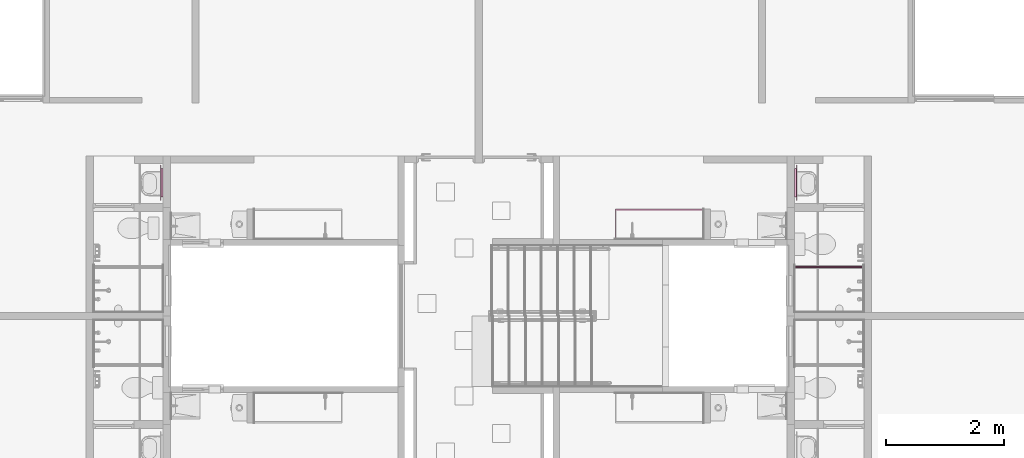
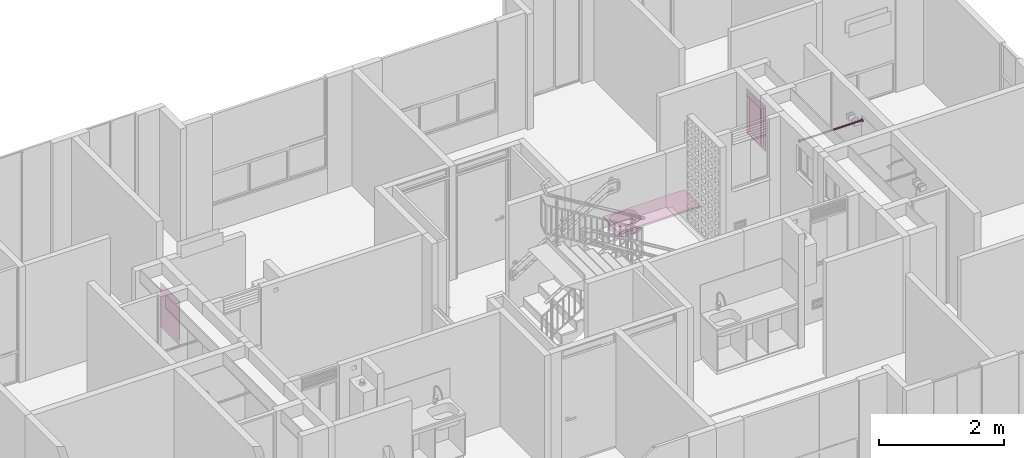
# One storey, part 44 of 48: 4 furniture elements.
"""IFC4 building model written with IfcOpenShell, lengths in metres."""

from ifc_helpers import new_model, entity, si_unit, converted_unit, derived_unit, direction, frame, origin, place, context, subcontext, project, spatial, arc, indexed_curve, outline, extrude, polygons, source, transform, mapped, material, constituent, constituent_set, type_object, type_shapes, element, save


model = new_model("IFC4")

# Units and contexts
model_context = context("Model", 3, precision=1e-05, world=origin(), true_north=direction((6.123031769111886e-17, 1.0)))
body_context = subcontext(model_context, "Body", "Model", "MODEL_VIEW")
ifc_project = project(units=[si_unit("LENGTHUNIT", "METRE"), si_unit("AREAUNIT", "SQUARE_METRE"), si_unit("VOLUMEUNIT", "CUBIC_METRE"), converted_unit("PLANEANGLEUNIT", "DEGREE", entity("IfcRatioMeasure", 0.017453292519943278), si_unit("PLANEANGLEUNIT", "RADIAN"), dimensions=[0, 0, 0, 0, 0, 0, 0]), si_unit("MASSUNIT", "GRAM", prefix="KILO"), derived_unit("MASSDENSITYUNIT", [(si_unit("MASSUNIT", "GRAM", prefix="KILO"), 1), (si_unit("LENGTHUNIT", "METRE"), -3)]), derived_unit("IONCONCENTRATIONUNIT", [(si_unit("MASSUNIT", "GRAM", prefix="KILO"), 1), (si_unit("LENGTHUNIT", "METRE"), -3)]), derived_unit("MOMENTOFINERTIAUNIT", [(si_unit("LENGTHUNIT", "METRE"), 4)]), si_unit("TIMEUNIT", "SECOND"), si_unit("FREQUENCYUNIT", "HERTZ"), si_unit("THERMODYNAMICTEMPERATUREUNIT", "DEGREE_CELSIUS"), derived_unit("THERMALTRANSMITTANCEUNIT", [(si_unit("MASSUNIT", "GRAM", prefix="KILO"), 1), (si_unit("THERMODYNAMICTEMPERATUREUNIT", "KELVIN"), -1), (si_unit("TIMEUNIT", "SECOND"), -3)]), derived_unit("THERMALCONDUCTANCEUNIT", [(si_unit("MASSUNIT", "GRAM", prefix="KILO"), 1), (si_unit("THERMODYNAMICTEMPERATUREUNIT", "KELVIN"), -1), (si_unit("TIMEUNIT", "SECOND"), -3), (si_unit("LENGTHUNIT", "METRE"), 1)]), derived_unit("VOLUMETRICFLOWRATEUNIT", [(si_unit("LENGTHUNIT", "METRE"), 3), (si_unit("TIMEUNIT", "SECOND"), -1)]), derived_unit("MASSFLOWRATEUNIT", [(si_unit("MASSUNIT", "GRAM", prefix="KILO"), 1), (si_unit("TIMEUNIT", "SECOND"), -1)]), derived_unit("ROTATIONALFREQUENCYUNIT", [(si_unit("TIMEUNIT", "SECOND"), -1)]), si_unit("ELECTRICCURRENTUNIT", "AMPERE"), si_unit("ELECTRICVOLTAGEUNIT", "VOLT"), si_unit("POWERUNIT", "WATT"), si_unit("FORCEUNIT", "NEWTON", prefix="KILO"), si_unit("ILLUMINANCEUNIT", "LUX"), si_unit("LUMINOUSFLUXUNIT", "LUMEN"), si_unit("LUMINOUSINTENSITYUNIT", "CANDELA"), derived_unit("USERDEFINED", [(si_unit("MASSUNIT", "GRAM", prefix="KILO"), -1), (si_unit("LENGTHUNIT", "METRE"), -2), (si_unit("TIMEUNIT", "SECOND"), 3), (si_unit("LUMINOUSFLUXUNIT", "LUMEN"), 1)]), derived_unit("USERDEFINED", [(si_unit("MASSUNIT", "GRAM", prefix="KILO"), 1), (si_unit("TIMEUNIT", "SECOND"), -3), (si_unit("LENGTHUNIT", "METRE"), 3), (si_unit("ELECTRICCURRENTUNIT", "AMPERE"), -2)]), derived_unit("SOUNDPOWERUNIT", [(si_unit("MASSUNIT", "GRAM", prefix="KILO"), 1), (si_unit("TIMEUNIT", "SECOND"), -3), (si_unit("LENGTHUNIT", "METRE"), 2)]), derived_unit("SOUNDPRESSUREUNIT", [(si_unit("MASSUNIT", "GRAM", prefix="KILO"), 1), (si_unit("LENGTHUNIT", "METRE"), -1), (si_unit("TIMEUNIT", "SECOND"), -2)]), derived_unit("LINEARVELOCITYUNIT", [(si_unit("LENGTHUNIT", "METRE"), 1), (si_unit("TIMEUNIT", "SECOND"), -1)]), si_unit("PRESSUREUNIT", "PASCAL"), derived_unit("USERDEFINED", [(si_unit("MASSUNIT", "GRAM", prefix="KILO"), 1), (si_unit("LENGTHUNIT", "METRE"), -2), (si_unit("TIMEUNIT", "SECOND"), -2)]), derived_unit("LINEARFORCEUNIT", [(si_unit("MASSUNIT", "GRAM", prefix="KILO"), 1), (si_unit("TIMEUNIT", "SECOND"), -2)]), derived_unit("PLANARFORCEUNIT", [(si_unit("MASSUNIT", "GRAM", prefix="KILO"), 1), (si_unit("LENGTHUNIT", "METRE"), -1), (si_unit("TIMEUNIT", "SECOND"), -2)]), derived_unit("SPECIFICHEATCAPACITYUNIT", [(si_unit("THERMODYNAMICTEMPERATUREUNIT", "KELVIN"), -1), (si_unit("LENGTHUNIT", "METRE"), 2), (si_unit("TIMEUNIT", "SECOND"), -2)]), derived_unit("HEATINGVALUEUNIT", [(si_unit("LENGTHUNIT", "METRE"), 2), (si_unit("TIMEUNIT", "SECOND"), -2)]), derived_unit("VAPORPERMEABILITYUNIT", [(si_unit("LENGTHUNIT", "METRE"), -1), (si_unit("TIMEUNIT", "SECOND"), 1)]), derived_unit("DYNAMICVISCOSITYUNIT", [(si_unit("MASSUNIT", "GRAM", prefix="KILO"), 1), (si_unit("TIMEUNIT", "SECOND"), -1), (si_unit("LENGTHUNIT", "METRE"), -1)]), derived_unit("THERMALEXPANSIONCOEFFICIENTUNIT", [(si_unit("THERMODYNAMICTEMPERATUREUNIT", "KELVIN"), -1)]), derived_unit("MODULUSOFELASTICITYUNIT", [(si_unit("MASSUNIT", "GRAM", prefix="KILO"), 1), (si_unit("LENGTHUNIT", "METRE"), -1), (si_unit("TIMEUNIT", "SECOND"), -2)]), derived_unit("ISOTHERMALMOISTURECAPACITYUNIT", [(si_unit("LENGTHUNIT", "METRE"), 3), (si_unit("MASSUNIT", "GRAM", prefix="KILO"), -1)]), derived_unit("MOISTUREDIFFUSIVITYUNIT", [(si_unit("TIMEUNIT", "SECOND"), -1), (si_unit("LENGTHUNIT", "METRE"), 2)])], contexts=[model_context])

# Site, building, storey
site_placement = place(None, origin())
site = spatial("IfcSite", under=ifc_project, at=site_placement, Name="Default", CompositionType="ELEMENT")
building_placement = place(site_placement, origin())
building = spatial("IfcBuilding", under=site, at=building_placement, CompositionType="ELEMENT")
storey_placement = place(building_placement, frame((0.0, 0.0, 4.700000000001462)))
storey = spatial("IfcBuildingStorey", under=building, at=storey_placement, Name="Nivel 3", CompositionType="ELEMENT", Elevation=4.700000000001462)

# Furniture
ifc_material_1 = material(Name="Aluminio", Category="Materials")
ifc_constituent_1 = constituent(ifc_material_1, Name="Aluminio", Category="Materials")
ifc_material_2 = material(Name="ESPEJO", Category="Materials")
ifc_constituent_2 = constituent(ifc_material_2, Name="ESPEJO", Category="Materials")
ifc_constituent_set_1 = constituent_set(constituents=[ifc_constituent_1, ifc_constituent_2])
ifc_constituent_3 = constituent(ifc_material_1, Name="Aluminio", Category="Materials")
ifc_constituent_4 = constituent(ifc_material_2, Name="ESPEJO", Category="Materials")
ifc_constituent_set_2 = constituent_set(constituents=[ifc_constituent_3, ifc_constituent_4])
furniture_type_1 = type_object("IfcFurnitureType", Name="E2050 - Espejo:E2050 - 0.60m x 0.87m - Espejo", AssemblyPlace="NOTDEFINED", PredefinedType="NOTDEFINED", material=ifc_constituent_set_2)
shared_shape_1 = source(origin(), body_context, "Body", "SweptSolid", [
    extrude(outline(indexed_curve([(-0.23999999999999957, -0.3749999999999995), (0.2399999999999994, -0.3749999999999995), (0.2399999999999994, 0.37499999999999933), (-0.23999999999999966, 0.3749999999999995), (-0.23999999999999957, -0.3749999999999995)], self_intersect=False), holes=[indexed_curve([(0.2149999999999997, -0.34999999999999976), (-0.21499999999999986, -0.34999999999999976), (-0.21499999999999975, 0.34999999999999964), (0.2149999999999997, 0.34999999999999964), (0.2149999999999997, -0.34999999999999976)], self_intersect=False)]), frame((0.12499999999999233, 0.062499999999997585, 1.485), z_axis=(0.0, 1.0, 0.0), x_axis=(1.0, 0.0, 0.0)), (0.0, 0.0, 1.0), 0.037500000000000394),
    extrude(outline(indexed_curve([(-0.00350000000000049, -0.30000000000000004), (0.00350000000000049, -0.30000000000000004), (0.00350000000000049, 0.30000000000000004), (-0.00350000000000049, 0.30000000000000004), (-0.00350000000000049, -0.30000000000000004)], self_intersect=False)), frame((0.1249999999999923, 0.10350000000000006, 1.05), z_axis=(0.0, 0.0, 1.0), x_axis=(0.0, 1.0, 0.0)), (0.0, 0.0, 1.0), 0.87),
])
type_shapes(furniture_type_1, [shared_shape_1])
furniture_1_placement = place(storey_placement, frame((14.620000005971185, -4.035000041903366, -0.020000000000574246), z_axis=(0.0, 0.0, 1.0), x_axis=(0.0, -1.0, 0.0)))
element("IfcFurniture", 1, at=furniture_1_placement, inside=storey, type_object=furniture_type_1, material=ifc_constituent_set_1, Name="E2050 - Espejo:E2050 - 0.60m x 0.87m - Espejo", ObjectType="E2050 - Espejo:E2050 - 0.60m x 0.87m - Espejo", PredefinedType="NOTDEFINED", context=body_context, shape_type="MappedRepresentation", body=[
    mapped(shared_shape_1, transform((0.0, 0.0, 0.0), scale=1.0)),
])
ifc_constituent_5 = constituent(ifc_material_1, Name="Aluminio", Category="Materials")
ifc_constituent_6 = constituent(ifc_material_2, Name="ESPEJO", Category="Materials")
ifc_constituent_set_3 = constituent_set(constituents=[ifc_constituent_5, ifc_constituent_6])
ifc_constituent_7 = constituent(ifc_material_1, Name="Aluminio", Category="Materials")
ifc_constituent_8 = constituent(ifc_material_2, Name="ESPEJO", Category="Materials")
ifc_constituent_set_4 = constituent_set(constituents=[ifc_constituent_7, ifc_constituent_8])
furniture_type_2 = type_object("IfcFurnitureType", Name="E2050 - Espejo:E2050 - 0.60m x 0.87m - Espejo", AssemblyPlace="NOTDEFINED", PredefinedType="NOTDEFINED", material=ifc_constituent_set_4)
shared_shape_2 = source(origin(), body_context, "Body", "SweptSolid", [
    extrude(outline(indexed_curve([(-0.3749999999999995, -0.2399999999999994), (0.37499999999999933, -0.23999999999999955), (0.3749999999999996, 0.2399999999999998), (-0.3749999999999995, 0.23999999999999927), (-0.3749999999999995, -0.2399999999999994)], self_intersect=False), holes=[indexed_curve([(-0.34999999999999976, 0.21499999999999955), (0.34999999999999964, 0.21499999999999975), (0.34999999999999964, -0.21499999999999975), (-0.34999999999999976, -0.21499999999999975), (-0.34999999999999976, 0.21499999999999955)], self_intersect=False)]), frame((0.12499999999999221, -0.09999999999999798, 1.485), z_axis=(0.0, 1.0, 0.0), x_axis=(0.0, 0.0, -1.0)), (0.0, 0.0, 1.0), 0.037500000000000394),
    extrude(outline(indexed_curve([(-0.30000000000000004, -0.00350000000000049), (0.30000000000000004, -0.00350000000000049), (0.30000000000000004, 0.00350000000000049), (-0.30000000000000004, 0.00350000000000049), (-0.30000000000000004, -0.00350000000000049)], self_intersect=False)), frame((0.1249999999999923, -0.10350000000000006, 1.05), z_axis=(0.0, 0.0, 1.0), x_axis=(-1.0, 0.0, 0.0)), (0.0, 0.0, 1.0), 0.87),
])
type_shapes(furniture_type_2, [shared_shape_2])
furniture_2_placement = place(storey_placement, frame((4.024999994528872, -4.035000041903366, -0.020000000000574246), z_axis=(0.0, 0.0, 1.0), x_axis=(0.0, -1.0, 0.0)))
element("IfcFurniture", 2, at=furniture_2_placement, inside=storey, type_object=furniture_type_2, material=ifc_constituent_set_3, Name="E2050 - Espejo:E2050 - 0.60m x 0.87m - Espejo", ObjectType="E2050 - Espejo:E2050 - 0.60m x 0.87m - Espejo", PredefinedType="NOTDEFINED", context=body_context, shape_type="MappedRepresentation", body=[
    mapped(shared_shape_2, transform((0.0, 0.0, 0.0), scale=1.0)),
])

# Space
space_1_placement = place(storey_placement, origin())
space_1 = spatial("IfcSpace", under=storey, at=space_1_placement, Name="159", CompositionType="ELEMENT", PredefinedType="SPACE")

# Furniture
ifc_material_3 = material(Name="<Unnamed>")
furniture_type_3 = type_object("IfcFurnitureType", Name="Barra baño:E2050- Barra Baño- Acero inoxidable", AssemblyPlace="NOTDEFINED", PredefinedType="NOTDEFINED", material=ifc_material_3)
shared_shape_3 = source(origin(), body_context, "Body", "SweptSolid", [
    extrude(outline(indexed_curve([(-0.025, 0.0), (-9.341026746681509e-17, -0.025), (0.025, 2.707167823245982e-16), (-1.316959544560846e-16, 0.025)], segments=[arc(1, 2, 3), arc(3, 4, 1)], self_intersect=False)), frame((-1.1599989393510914, 0.0, 1.8000000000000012), z_axis=(1.0, 0.0, 0.0), x_axis=(0.0, 1.0, 0.0)), (0.0, 0.0, 1.0), 0.005000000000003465),
    extrude(outline(indexed_curve([(-0.03, 0.0), (-1.1209232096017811e-16, -0.029999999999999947), (0.03, 2.707167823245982e-16), (-1.3138979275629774e-16, 0.029999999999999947)], segments=[arc(1, 2, 3), arc(3, 4, 1)], self_intersect=False)), frame((-1.164998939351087, 0.0, 1.8000000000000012), z_axis=(1.0, 0.0, 0.0), x_axis=(0.0, 1.0, 0.0)), (0.0, 0.0, 1.0), 0.0049999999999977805),
    extrude(outline(indexed_curve([(-0.0125, 0.0), (-4.6705133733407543e-17, -0.012499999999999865), (0.0125, 0.0), (7.654042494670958e-19, 0.012499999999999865)], segments=[arc(1, 2, 3), arc(3, 4, 1)], self_intersect=False)), frame((-1.1549989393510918, 0.0, 1.7999999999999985), z_axis=(1.0, 0.0, 0.0), x_axis=(0.0, 1.0, 0.0)), (0.0, 0.0, 1.0), 1.149998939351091),
    extrude(outline(indexed_curve([(-0.025, 0.0), (-2.2663703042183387e-16, -0.025), (0.025, 0.0), (1.5308084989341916e-18, 0.025)], segments=[arc(1, 2, 3), arc(3, 4, 1)], self_intersect=False)), frame((-0.005000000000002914, 0.0, 1.7999999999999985), z_axis=(1.0, 0.0, 0.0), x_axis=(0.0, 1.0, 0.0)), (0.0, 0.0, 1.0), 0.005000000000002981),
    extrude(outline(indexed_curve([(-0.03, 0.0), (-2.1867373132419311e-16, -0.029999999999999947), (0.03, 0.0), (1.8369701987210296e-18, 0.029999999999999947)], segments=[arc(1, 2, 3), arc(3, 4, 1)], self_intersect=False)), frame((0.0, 0.0, 1.7999999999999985), z_axis=(1.0, 0.0, 0.0), x_axis=(0.0, 1.0, 0.0)), (0.0, 0.0, 1.0), 0.00499999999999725),
])
type_shapes(furniture_type_3, [shared_shape_3])
furniture_3_placement = place(space_1_placement, frame((14.69250000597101, -5.590000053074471, 0.1299999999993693), z_axis=(0.0, 0.0, 1.0), x_axis=(-1.0, 0.0, 0.0)))
element("IfcFurniture", 3, at=furniture_3_placement, inside=space_1, type_object=furniture_type_3, material=ifc_material_3, Name="Barra baño:E2050- Barra Baño- Acero inoxidable", ObjectType="Barra baño:E2050- Barra Baño- Acero inoxidable", PredefinedType="NOTDEFINED", context=body_context, shape_type="MappedRepresentation", body=[
    mapped(shared_shape_3, transform((0.0, 0.0, 0.0), scale=1.0)),
])

# Space
space_2_placement = place(storey_placement, origin())
space_2 = spatial("IfcSpace", under=storey, at=space_2_placement, Name="162", CompositionType="ELEMENT", PredefinedType="SPACE")

# Furniture
ifc_material_4 = material(Name="Mesón cocina", Category="Materials")
furniture_type_4 = type_object("IfcFurnitureType", Name="E1060 - Meson Socoda Radiante - 1.50 X 0.52 - Acero inoxidable:E1060 - 1.50 x 0.52 - Meson de cocina, lavadero y estufa - Acero inoxidable", AssemblyPlace="NOTDEFINED", PredefinedType="NOTDEFINED", material=ifc_material_4)
shared_shape_4 = source(origin(), body_context, "Body", "Tessellation", [
    polygons([(0.7500000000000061, 0.2600000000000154, 0.03499999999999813), (-0.7499999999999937, 0.2600000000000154, 0.03499999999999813), (-0.7499999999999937, -0.2600000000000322, 0.03499999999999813), (0.7500000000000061, -0.2600000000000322, 0.03499999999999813), (0.23610399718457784, 0.03077661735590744, 0.03499999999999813), (0.23985215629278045, 0.05924671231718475, 0.03499999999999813), (0.2508412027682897, 0.08577661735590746, 0.03499999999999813), (0.2683222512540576, 0.10855836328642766, 0.03499999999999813), (0.2911039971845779, 0.1260394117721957, 0.03499999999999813), (0.31763390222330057, 0.13702845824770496, 0.03499999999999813), (0.3461039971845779, 0.1407766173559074, 0.03499999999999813), (0.593473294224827, 0.14077661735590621, 0.03499999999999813), (0.6219433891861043, 0.13702845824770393, 0.03499999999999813), (0.6484732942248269, 0.1260394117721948, 0.03499999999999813), (0.6712550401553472, 0.10855836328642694, 0.03499999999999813), (0.6887360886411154, 0.08577661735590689, 0.03499999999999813), (0.6997251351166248, 0.05924671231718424, 0.03499999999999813), (0.7034732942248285, 0.03077661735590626, 0.03499999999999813), (0.703473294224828, -0.11422338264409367, 0.03499999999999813), (0.6997251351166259, -0.14269347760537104, 0.03499999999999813), (0.6887360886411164, -0.1692233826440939, 0.03499999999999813), (0.6712550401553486, -0.1920051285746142, 0.03499999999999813), (0.6484732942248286, -0.20948617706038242, 0.03499999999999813), (0.6219433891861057, -0.22047522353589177, 0.03499999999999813), (0.5934732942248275, -0.22422338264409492, 0.03499999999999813), (0.3461039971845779, -0.22422338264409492, 0.03499999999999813), (0.31763390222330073, -0.22047522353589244, 0.03499999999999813), (0.2911039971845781, -0.20948617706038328, 0.03499999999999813), (0.2683222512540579, -0.1920051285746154, 0.03499999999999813), (0.2508412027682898, -0.1692233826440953, 0.03499999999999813), (0.23985215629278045, -0.14269347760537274, 0.03499999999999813), (0.23610399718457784, -0.11422338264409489, 0.03499999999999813), (0.7500000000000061, 0.2600000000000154, -1.8678232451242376e-15), (0.7500000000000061, -0.2600000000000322, -1.8678232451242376e-15), (-0.7499999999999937, -0.2600000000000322, -1.8678232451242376e-15), (-0.7499999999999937, 0.2600000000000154, -1.8678232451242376e-15), (0.5934732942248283, 0.1507766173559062, -1.8678232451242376e-15), (0.34610399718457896, 0.1507766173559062, -1.8678232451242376e-15), (0.31504571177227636, 0.1466877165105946, -1.8678232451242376e-15), (0.2861039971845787, 0.13469966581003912, -1.8678232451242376e-15), (0.2612511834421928, 0.11562943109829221, -1.8678232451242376e-15), (0.2421809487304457, 0.09077661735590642, -1.8678232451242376e-15), (0.23019289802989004, 0.06183490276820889, -1.8678232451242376e-15), (0.22610399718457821, 0.030776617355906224, -1.8678232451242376e-15), (0.22610399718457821, -0.11422338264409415, -1.8678232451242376e-15), (0.2301928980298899, -0.14528166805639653, -1.8678232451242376e-15), (0.24218094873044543, -0.17422338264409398, -1.8678232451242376e-15), (0.2612511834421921, -0.19907619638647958, -1.8678232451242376e-15), (0.2861039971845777, -0.2181464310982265, -1.8678232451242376e-15), (0.31504571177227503, -0.2301344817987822, -1.8678232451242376e-15), (0.3461039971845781, -0.23422338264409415, -1.8678232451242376e-15), (0.5934732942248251, -0.23422338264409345, -1.8678232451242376e-15), (0.6245315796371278, -0.2301344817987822, -1.8678232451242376e-15), (0.6534732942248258, -0.21814643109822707, -1.8678232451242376e-15), (0.6783261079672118, -0.19907619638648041, -1.8678232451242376e-15), (0.6973963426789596, -0.17422338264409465, -1.8678232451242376e-15), (0.7093843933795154, -0.14528166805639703, -1.8678232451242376e-15), (0.7134732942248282, -0.11422338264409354, -1.8678232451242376e-15), (0.7134732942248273, 0.030776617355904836, -1.8678232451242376e-15), (0.7093843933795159, 0.061834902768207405, -1.8678232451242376e-15), (0.6973963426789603, 0.09077661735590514, -1.8678232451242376e-15), (0.6783261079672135, 0.11562943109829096, -1.8678232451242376e-15), (0.6534732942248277, 0.13469966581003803, -1.8678232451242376e-15), (0.62453157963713, 0.1466877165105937, -1.8678232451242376e-15), (0.5934732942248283, 0.15077661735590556, -0.16000000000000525), (0.6245315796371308, 0.1466877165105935, -0.16000000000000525), (0.6534732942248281, 0.13469966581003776, -0.16000000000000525), (0.6783261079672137, 0.1156294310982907, -0.16000000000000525), (0.6973963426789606, 0.0907766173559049, -0.16000000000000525), (0.7093843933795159, 0.06183490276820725, -0.16000000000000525), (0.7134732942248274, 0.030776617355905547, -0.16000000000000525), (0.7134732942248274, -0.11422338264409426, -0.16000000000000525), (0.7093843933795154, -0.1452816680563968, -0.16000000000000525), (0.6973963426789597, -0.1742233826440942, -0.16000000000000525), (0.6783261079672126, -0.19907619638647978, -0.16000000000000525), (0.6534732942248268, -0.21814643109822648, -0.16000000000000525), (0.6245315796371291, -0.2301344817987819, -0.16000000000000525), (0.5934732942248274, -0.2342233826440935, -0.16000000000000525), (0.3461039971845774, -0.23422338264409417, -0.16000000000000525), (0.3150457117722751, -0.23013448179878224, -0.16000000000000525), (0.28610399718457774, -0.21814643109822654, -0.16000000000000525), (0.26125118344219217, -0.19907619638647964, -0.16000000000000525), (0.24218094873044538, -0.17422338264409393, -0.16000000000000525), (0.2301928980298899, -0.14528166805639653, -0.16000000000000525), (0.22610399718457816, -0.11422338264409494, -0.16000000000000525), (0.22610399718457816, 0.030776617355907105, -0.16000000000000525), (0.23019289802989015, 0.06183490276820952, -0.16000000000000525), (0.2421809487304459, 0.09077661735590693, -0.16000000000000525), (0.261251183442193, 0.11562943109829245, -0.16000000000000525), (0.2861039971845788, 0.13469966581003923, -0.16000000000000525), (0.31504571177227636, 0.1466877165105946, -0.16000000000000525), (0.3461039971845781, 0.1507766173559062, -0.16000000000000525), (0.3461039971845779, 0.14077661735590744, -0.14475899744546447), (0.31763390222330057, 0.13702845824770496, -0.14475899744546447), (0.2911039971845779, 0.1260394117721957, -0.14475899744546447), (0.2683222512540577, 0.10855836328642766, -0.14475899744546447), (0.25084120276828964, 0.08577661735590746, -0.14475899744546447), (0.2398521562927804, 0.05924671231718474, -0.14475899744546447), (0.23610399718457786, 0.03077661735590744, -0.14475899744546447), (0.23610399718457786, -0.11422338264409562, -0.14475899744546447), (0.23985215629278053, -0.14269347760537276, -0.14475899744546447), (0.25084120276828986, -0.16922338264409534, -0.14475899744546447), (0.2683222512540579, -0.19200512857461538, -0.14475899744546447), (0.2911039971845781, -0.20948617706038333, -0.14475899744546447), (0.31763390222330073, -0.22047522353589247, -0.14475899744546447), (0.3461039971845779, -0.2242233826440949, -0.14475899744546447), (0.5934732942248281, -0.22422338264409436, -0.14475899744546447), (0.6219433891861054, -0.22047522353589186, -0.14475899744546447), (0.6484732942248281, -0.20948617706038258, -0.14475899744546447), (0.6712550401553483, -0.19200512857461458, -0.14475899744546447), (0.6887360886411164, -0.16922338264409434, -0.14475899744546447), (0.6997251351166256, -0.14269347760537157, -0.14475899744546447), (0.7034732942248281, -0.11422338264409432, -0.14475899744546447), (0.7034732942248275, 0.030776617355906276, -0.14475899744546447), (0.699725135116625, 0.05924671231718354, -0.14475899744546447), (0.6887360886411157, 0.08577661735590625, -0.14475899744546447), (0.6712550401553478, 0.10855836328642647, -0.14475899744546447), (0.6484732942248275, 0.1260394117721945, -0.14475899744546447), (0.6219433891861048, 0.13702845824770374, -0.14475899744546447), (0.5934732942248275, 0.14077661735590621, -0.14475899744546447)], [[[1, 2, 3, 4], [17, 18, 19, 20, 21, 22, 23, 24, 25, 26, 27, 28, 29, 30, 31, 32, 5, 6, 7, 8, 9, 10, 11, 12, 13, 14, 15, 16]], [[118, 119, 120, 93, 94, 95, 96, 97, 98, 99, 100, 101, 102, 103, 104, 105, 106, 107, 108, 109, 110, 111, 112, 113, 114, 115, 116, 117]], [[36, 33, 34, 35], [43, 44, 45, 46, 47, 48, 49, 50, 51, 52, 53, 54, 55, 56, 57, 58, 59, 60, 61, 62, 63, 64, 37, 38, 39, 40, 41, 42]], [[89, 90, 91, 92, 65, 66, 67, 68, 69, 70, 71, 72, 73, 74, 75, 76, 77, 78, 79, 80, 81, 82, 83, 84, 85, 86, 87, 88]], [[2, 1, 33, 36]], [[38, 37, 65, 92]], [[106, 26, 25, 107]], [[3, 2, 36, 35]], [[45, 44, 86, 85]], [[114, 113, 19, 18]], [[4, 3, 35, 34]], [[52, 51, 79, 78]], [[120, 12, 11, 93]], [[1, 4, 34, 33]], [[59, 58, 72, 71]], [[99, 5, 32, 100]], [[39, 91, 90, 40]], [[109, 108, 24, 23]], [[40, 90, 89, 41]], [[110, 109, 23, 22]], [[92, 91, 39, 38]], [[25, 24, 108, 107]], [[42, 88, 87, 43]], [[112, 111, 21, 20]], [[43, 87, 86, 44]], [[113, 112, 20, 19]], [[41, 89, 88, 42]], [[21, 111, 110, 22]], [[46, 84, 83, 47]], [[17, 16, 116, 115]], [[47, 83, 82, 48]], [[16, 15, 117, 116]], [[85, 84, 46, 45]], [[115, 114, 18, 17]], [[49, 81, 80, 50]], [[119, 118, 14, 13]], [[50, 80, 79, 51]], [[120, 119, 13, 12]], [[48, 82, 81, 49]], [[14, 118, 117, 15]], [[53, 77, 76, 54]], [[95, 94, 10, 9]], [[54, 76, 75, 55]], [[96, 95, 9, 8]], [[78, 77, 53, 52]], [[11, 10, 94, 93]], [[56, 74, 73, 57]], [[98, 97, 7, 6]], [[57, 73, 72, 58]], [[99, 98, 6, 5]], [[55, 75, 74, 56]], [[7, 97, 96, 8]], [[60, 70, 69, 61]], [[102, 101, 31, 30]], [[61, 69, 68, 62]], [[103, 102, 30, 29]], [[71, 70, 60, 59]], [[32, 31, 101, 100]], [[63, 67, 66, 64]], [[105, 104, 28, 27]], [[64, 66, 65, 37]], [[106, 105, 27, 26]], [[62, 68, 67, 63]], [[28, 104, 103, 29]]], closed=True),
])
type_shapes(furniture_type_4, [shared_shape_4])
furniture_4_placement = place(space_2_placement, frame((12.392500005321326, -4.86500002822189, 0.8949999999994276), z_axis=(0.0, 0.0, 1.0), x_axis=(-1.0, 0.0, 0.0)))
element("IfcFurniture", 4, at=furniture_4_placement, inside=space_2, type_object=furniture_type_4, material=ifc_material_4, Name="E1060 - Meson Socoda Radiante - 1.50 X 0.52 - Acero inoxidable:E1060 - 1.50 x 0.52 - Meson de cocina, lavadero y estufa - Acero inoxidable", ObjectType="E1060 - Meson Socoda Radiante - 1.50 X 0.52 - Acero inoxidable:E1060 - 1.50 x 0.52 - Meson de cocina, lavadero y estufa - Acero inoxidable", PredefinedType="NOTDEFINED", context=body_context, shape_type="MappedRepresentation", body=[
    mapped(shared_shape_4, transform((0.0, 0.0, 0.0), scale=1.0)),
])

save(model, "model.ifc")
